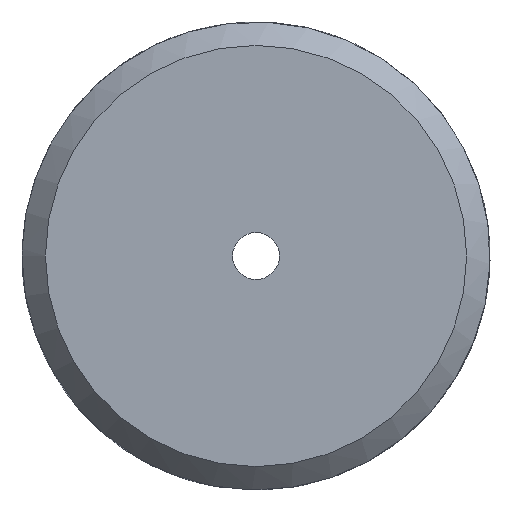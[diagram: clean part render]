
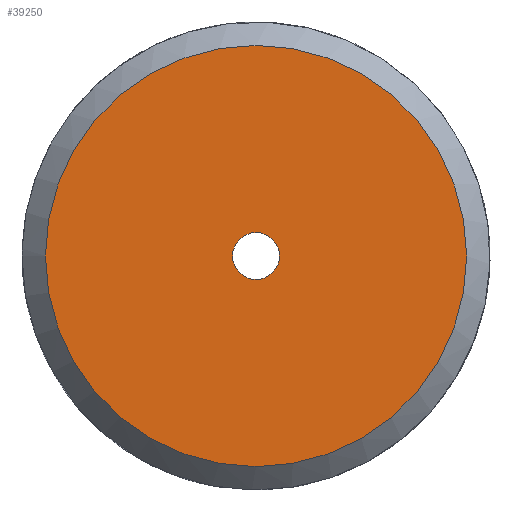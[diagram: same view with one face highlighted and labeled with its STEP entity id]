
A CAD part, left-side view. The second image highlights one B-rep face of the part: STEP entity #39250.
In plain terms, the highlighted planar face has unit normal (-1, 0, 0).
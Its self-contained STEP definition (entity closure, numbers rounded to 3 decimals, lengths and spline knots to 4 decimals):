
#11287=PLANE('',#38745);
#14554=ORIENTED_EDGE('',*,*,#16798,.F.);
#14555=ORIENTED_EDGE('',*,*,#16797,.F.);
#14920=CIRCLE('',#38744,0.5);
#14921=CIRCLE('',#38746,4.5);
#15671=VERTEX_POINT('',#38014);
#15672=VERTEX_POINT('',#38017);
#16797=EDGE_CURVE('',#15671,#15671,#14920,.T.);
#16798=EDGE_CURVE('',#15672,#15672,#14921,.T.);
#17180=EDGE_LOOP('',(#14554));
#17181=EDGE_LOOP('',(#14555));
#17565=FACE_BOUND('',#17180,.T.);
#17566=FACE_BOUND('',#17181,.T.);
#19013=DIRECTION('',(-1.,0.,0.));
#19014=DIRECTION('',(0.,0.,0.5));
#19015=DIRECTION('',(-1.,0.,0.));
#19016=DIRECTION('',(0.,1.,0.));
#19017=DIRECTION('',(1.,0.,0.));
#19018=DIRECTION('',(0.,0.,-4.5));
#38014=CARTESIAN_POINT('',(0.,0.,0.5));
#38015=CARTESIAN_POINT('',(0.,0.,0.));
#38016=CARTESIAN_POINT('',(0.,0.,-4.5));
#38017=CARTESIAN_POINT('',(0.,0.,-4.5));
#38018=CARTESIAN_POINT('',(0.,0.,0.));
#38744=AXIS2_PLACEMENT_3D('',#38015,#19013,#19014);
#38745=AXIS2_PLACEMENT_3D('',#38016,#19015,#19016);
#38746=AXIS2_PLACEMENT_3D('',#38018,#19017,#19018);
#39250=ADVANCED_FACE('',(#17565,#17566),#11287,.T.);
